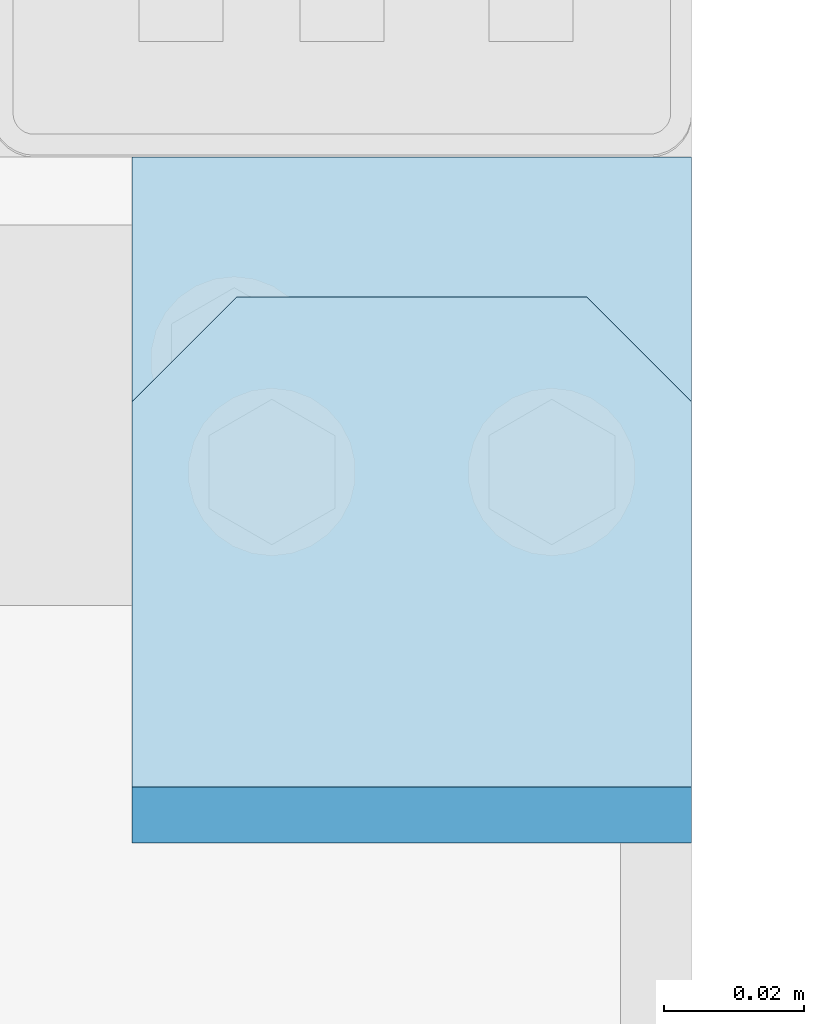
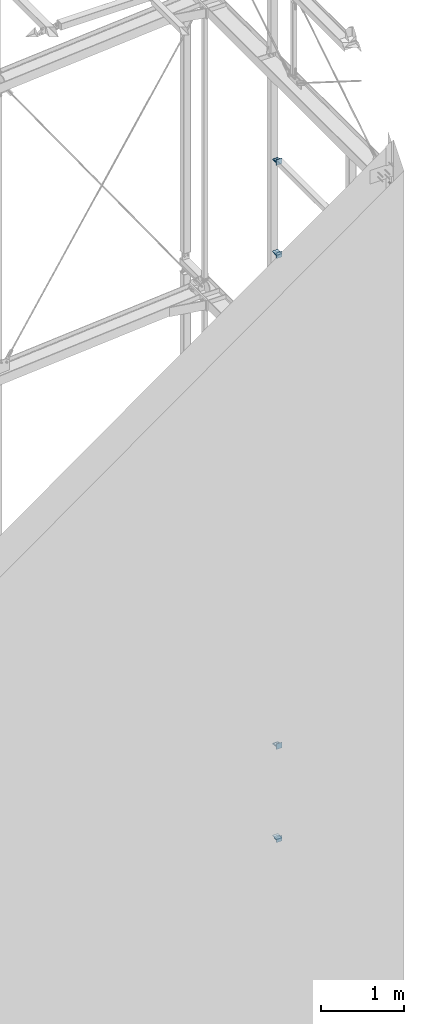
# One storey, part 173 of 271: 12 plates, 6 elements without a shape of their own.
"""IFC2X3 building model written with IfcOpenShell, lengths in millimetres."""

from ifc_helpers import new_model, si_unit, frame, origin_with_axes, place, context, subcontext, project, spatial, polyline, outline, extrude, material, type_object, element, aggregate, save


model = new_model("IFC2X3")

# Units and contexts
model_context = context("Model", 3, precision=1e-05, world=origin_with_axes())
body_context = subcontext(model_context, "Body", "Model", "MODEL_VIEW")
ifc_project = project(units=[si_unit("LENGTHUNIT", "METRE", prefix="MILLI"), si_unit("AREAUNIT", "SQUARE_METRE"), si_unit("VOLUMEUNIT", "CUBIC_METRE"), si_unit("MASSUNIT", "GRAM", prefix="KILO"), si_unit("TIMEUNIT", "SECOND"), si_unit("PLANEANGLEUNIT", "RADIAN"), si_unit("SOLIDANGLEUNIT", "STERADIAN"), si_unit("THERMODYNAMICTEMPERATUREUNIT", "DEGREE_CELSIUS"), si_unit("LUMINOUSINTENSITYUNIT", "LUMEN")], contexts=[model_context])

# Site, building, storey
site_placement = place(None, origin_with_axes())
site = spatial("IfcSite", under=ifc_project, at=site_placement, Name="Undefined", CompositionType="ELEMENT")
building_placement = place(site_placement, origin_with_axes())
building = spatial("IfcBuilding", under=site, at=building_placement, Name="Undefined", CompositionType="ELEMENT")
storey_placement = place(building_placement, origin_with_axes())
storey = spatial("IfcBuildingStorey", under=building, at=storey_placement, Name="Undefined", CompositionType="ELEMENT", Elevation=0.0)

# Assembly, plate
assembly_1_placement = place(storey_placement, origin_with_axes())
assembly_1 = element("IfcElementAssembly", 1, at=assembly_1_placement, inside=storey, AssemblyPlace="NOTDEFINED", PredefinedType="RIGID_FRAME")
ifc_material = material(Name="STEEL/S355JR")
plate_type_1 = type_object("IfcPlateType", Name="BL10*70", PredefinedType="NOTDEFINED")
plate_1_placement = place(assembly_1_placement, frame((12628.3756870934, 2714.05211980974, 7154.34999990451), z_axis=(0.0, 0.0, -1.0), x_axis=(0.707106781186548, 0.707106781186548, 0.0)))
plate_1 = element("IfcPlate", 2, at=plate_1_placement, type_object=plate_type_1, material=ifc_material, Name="BLACHA", ObjectType="BL10*70", context=body_context, shape_type="SweptSolid", body=[
    extrude(outline(polyline([(0.0, 0.0), (21.2132034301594, 1.09139364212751e-11), (56.5685424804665, 35.3553390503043), (56.568542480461, 56.5685424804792), (17.6776695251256, 95.4594192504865), (-38.890872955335, 38.8908729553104), (0.0, 0.0)])), frame((0.0, 0.0, -5.0), z_axis=(0.0, 0.0, 1.0), x_axis=(1.0, 0.0, 0.0)), (0.0, 0.0, 1.0), 10.0),
])

assembly_2_placement = place(storey_placement, origin_with_axes())
assembly_2 = element("IfcElementAssembly", 3, at=assembly_2_placement, inside=storey, AssemblyPlace="NOTDEFINED", PredefinedType="RIGID_FRAME")
plate_2_placement = place(assembly_2_placement, frame((12628.3756870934, 2749.05211980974, 7164.34999990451), z_axis=(0.0, 0.0, -1.0), x_axis=(1.0, 0.0, 0.0)))
plate_2 = element("IfcPlate", 4, at=plate_2_placement, type_object=plate_type_1, material=ifc_material, Name="BLACHA", ObjectType="BL10*70", context=body_context, shape_type="SweptSolid", body=[
    extrude(outline(polyline([(0.0, 0.0), (80.0, 0.0), (80.0, 70.0), (0.0, 70.0), (0.0, 0.0)])), frame((0.0, 0.0, -5.0), z_axis=(0.0, 0.0, 1.0), x_axis=(1.0, 0.0, 0.0)), (0.0, 0.0, 1.0), 10.0),
])

assembly_3_placement = place(storey_placement, origin_with_axes())
assembly_3 = element("IfcElementAssembly", 5, at=assembly_3_placement, inside=storey, AssemblyPlace="NOTDEFINED", PredefinedType="RIGID_FRAME")
plate_3_placement = place(assembly_3_placement, frame((12708.3756870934, 2714.05211980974, 8534.34999990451), z_axis=(0.0, 0.0, 1.0), x_axis=(-0.707106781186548, 0.707106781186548, 0.0)))
plate_3 = element("IfcPlate", 6, at=plate_3_placement, type_object=plate_type_1, material=ifc_material, Name="BLACHA", ObjectType="BL10*70", context=body_context, shape_type="SweptSolid", body=[
    extrude(outline(polyline([(0.0, 0.0), (21.2132034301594, 1.09139364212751e-11), (56.5685424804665, 35.3553390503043), (56.568542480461, 56.5685424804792), (17.6776695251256, 95.4594192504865), (-38.890872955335, 38.8908729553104), (0.0, 0.0)])), frame((0.0, 0.0, -5.0), z_axis=(0.0, 0.0, 1.0), x_axis=(1.0, 0.0, 0.0)), (0.0, 0.0, 1.0), 10.0),
])

# Plate
plate_4_placement = place(assembly_2_placement, frame((12708.3756870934, 2749.05211980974, 8524.34999990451), z_axis=(0.0, 0.0, 1.0), x_axis=(-1.0, 0.0, 1.38777878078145e-17)))
plate_4 = element("IfcPlate", 7, at=plate_4_placement, type_object=plate_type_1, material=ifc_material, Name="BLACHA", ObjectType="BL10*70", context=body_context, shape_type="SweptSolid", body=[
    extrude(outline(polyline([(0.0, 0.0), (80.0, 0.0), (80.0, 70.0), (0.0, 70.0), (0.0, 0.0)])), frame((0.0, 0.0, -5.0), z_axis=(0.0, 0.0, 1.0), x_axis=(1.0, 0.0, 0.0)), (0.0, 0.0, 1.0), 10.0),
])

aggregate(assembly_2, [plate_2, plate_4])

# Assembly, plate
assembly_4_placement = place(storey_placement, origin_with_axes())
assembly_4 = element("IfcElementAssembly", 8, at=assembly_4_placement, inside=storey, AssemblyPlace="NOTDEFINED", PredefinedType="RIGID_FRAME")
plate_5_placement = place(assembly_4_placement, frame((12628.3756870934, 2714.05211980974, 15794.3499999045), z_axis=(0.0, 0.0, -1.0), x_axis=(0.707106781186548, 0.707106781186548, 0.0)))
plate_5 = element("IfcPlate", 9, at=plate_5_placement, type_object=plate_type_1, material=ifc_material, Name="BLACHA", ObjectType="BL10*70", context=body_context, shape_type="SweptSolid", body=[
    extrude(outline(polyline([(0.0, 0.0), (21.2132034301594, 1.09139364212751e-11), (56.5685424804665, 35.3553390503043), (56.568542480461, 56.5685424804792), (17.6776695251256, 95.4594192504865), (-38.890872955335, 38.8908729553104), (0.0, 0.0)])), frame((0.0, 0.0, -5.0), z_axis=(0.0, 0.0, 1.0), x_axis=(1.0, 0.0, 0.0)), (0.0, 0.0, 1.0), 10.0),
])

assembly_5_placement = place(storey_placement, origin_with_axes())
assembly_5 = element("IfcElementAssembly", 10, at=assembly_5_placement, inside=storey, AssemblyPlace="NOTDEFINED", PredefinedType="RIGID_FRAME")
plate_6_placement = place(assembly_5_placement, frame((12628.3756870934, 2749.05211980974, 15804.3499999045), z_axis=(0.0, 0.0, -1.0), x_axis=(1.0, 0.0, 0.0)))
plate_6 = element("IfcPlate", 11, at=plate_6_placement, type_object=plate_type_1, material=ifc_material, Name="BLACHA", ObjectType="BL10*70", context=body_context, shape_type="SweptSolid", body=[
    extrude(outline(polyline([(0.0, 0.0), (80.0, 0.0), (80.0, 70.0), (0.0, 70.0), (0.0, 0.0)])), frame((0.0, 0.0, -5.0), z_axis=(0.0, 0.0, 1.0), x_axis=(1.0, 0.0, 0.0)), (0.0, 0.0, 1.0), 10.0),
])

assembly_6_placement = place(storey_placement, origin_with_axes())
assembly_6 = element("IfcElementAssembly", 12, at=assembly_6_placement, inside=storey, AssemblyPlace="NOTDEFINED", PredefinedType="RIGID_FRAME")
plate_7_placement = place(assembly_6_placement, frame((12708.3756870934, 2714.05211980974, 17174.3499999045), z_axis=(0.0, 0.0, 1.0), x_axis=(-0.707106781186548, 0.707106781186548, 0.0)))
plate_7 = element("IfcPlate", 13, at=plate_7_placement, type_object=plate_type_1, material=ifc_material, Name="BLACHA", ObjectType="BL10*70", context=body_context, shape_type="SweptSolid", body=[
    extrude(outline(polyline([(0.0, 0.0), (21.2132034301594, 1.09139364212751e-11), (56.5685424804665, 35.3553390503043), (56.568542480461, 56.5685424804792), (17.6776695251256, 95.4594192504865), (-38.890872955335, 38.8908729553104), (0.0, 0.0)])), frame((0.0, 0.0, -5.0), z_axis=(0.0, 0.0, 1.0), x_axis=(1.0, 0.0, 0.0)), (0.0, 0.0, 1.0), 10.0),
])

# Plate
plate_8_placement = place(assembly_5_placement, frame((12708.3756870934, 2749.05211980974, 17164.3499999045), z_axis=(0.0, 0.0, 1.0), x_axis=(-1.0, 0.0, 1.38777878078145e-17)))
plate_8 = element("IfcPlate", 14, at=plate_8_placement, type_object=plate_type_1, material=ifc_material, Name="BLACHA", ObjectType="BL10*70", context=body_context, shape_type="SweptSolid", body=[
    extrude(outline(polyline([(0.0, 0.0), (80.0, 0.0), (80.0, 70.0), (0.0, 70.0), (0.0, 0.0)])), frame((0.0, 0.0, -5.0), z_axis=(0.0, 0.0, 1.0), x_axis=(1.0, 0.0, 0.0)), (0.0, 0.0, 1.0), 10.0),
])

aggregate(assembly_5, [plate_6, plate_8])

plate_type_2 = type_object("IfcPlateType", Name="BL8*80", PredefinedType="NOTDEFINED")
plate_9_placement = place(assembly_1_placement, frame((12628.3756870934, 2655.05211980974, 7194.34999990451), z_axis=(0.0, 1.0, 0.0), x_axis=(1.0, 0.0, 0.0)))
plate_9 = element("IfcPlate", 15, at=plate_9_placement, type_object=plate_type_2, material=ifc_material, Name="BLACHA", ObjectType="BL8*80", context=body_context, shape_type="SweptSolid", body=[
    extrude(outline(polyline([(0.0, 0.0), (80.0, 0.0), (80.0, 80.0), (0.0, 80.0), (0.0, 0.0)])), frame((0.0, 0.0, -4.0), z_axis=(0.0, 0.0, 1.0), x_axis=(1.0, 0.0, 0.0)), (0.0, 0.0, 1.0), 8.0),
])

aggregate(assembly_1, [plate_9, plate_1])

plate_10_placement = place(assembly_3_placement, frame((12708.3756870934, 2655.05211980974, 8494.34999990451), z_axis=(0.0, 1.0, 0.0), x_axis=(-1.0, 0.0, 1.38777878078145e-17)))
plate_10 = element("IfcPlate", 16, at=plate_10_placement, type_object=plate_type_2, material=ifc_material, Name="BLACHA", ObjectType="BL8*80", context=body_context, shape_type="SweptSolid", body=[
    extrude(outline(polyline([(0.0, 0.0), (80.0, 0.0), (80.0, 80.0), (0.0, 80.0), (0.0, 0.0)])), frame((0.0, 0.0, -4.0), z_axis=(0.0, 0.0, 1.0), x_axis=(1.0, 0.0, 0.0)), (0.0, 0.0, 1.0), 8.0),
])

aggregate(assembly_3, [plate_10, plate_3])

plate_11_placement = place(assembly_4_placement, frame((12628.3756870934, 2655.05211980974, 15834.3499999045), z_axis=(0.0, 1.0, 0.0), x_axis=(1.0, 0.0, 0.0)))
plate_11 = element("IfcPlate", 17, at=plate_11_placement, type_object=plate_type_2, material=ifc_material, Name="BLACHA", ObjectType="BL8*80", context=body_context, shape_type="SweptSolid", body=[
    extrude(outline(polyline([(0.0, 0.0), (80.0, 0.0), (80.0, 80.0), (0.0, 80.0), (0.0, 0.0)])), frame((0.0, 0.0, -4.0), z_axis=(0.0, 0.0, 1.0), x_axis=(1.0, 0.0, 0.0)), (0.0, 0.0, 1.0), 8.0),
])

aggregate(assembly_4, [plate_11, plate_5])

plate_12_placement = place(assembly_6_placement, frame((12708.3756870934, 2655.05211980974, 17134.3499999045), z_axis=(0.0, 1.0, 0.0), x_axis=(-1.0, 0.0, 1.38777878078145e-17)))
plate_12 = element("IfcPlate", 18, at=plate_12_placement, type_object=plate_type_2, material=ifc_material, Name="BLACHA", ObjectType="BL8*80", context=body_context, shape_type="SweptSolid", body=[
    extrude(outline(polyline([(0.0, 0.0), (80.0, 0.0), (80.0, 80.0), (0.0, 80.0), (0.0, 0.0)])), frame((0.0, 0.0, -4.0), z_axis=(0.0, 0.0, 1.0), x_axis=(1.0, 0.0, 0.0)), (0.0, 0.0, 1.0), 8.0),
])

aggregate(assembly_6, [plate_12, plate_7])

save(model, "model.ifc")
